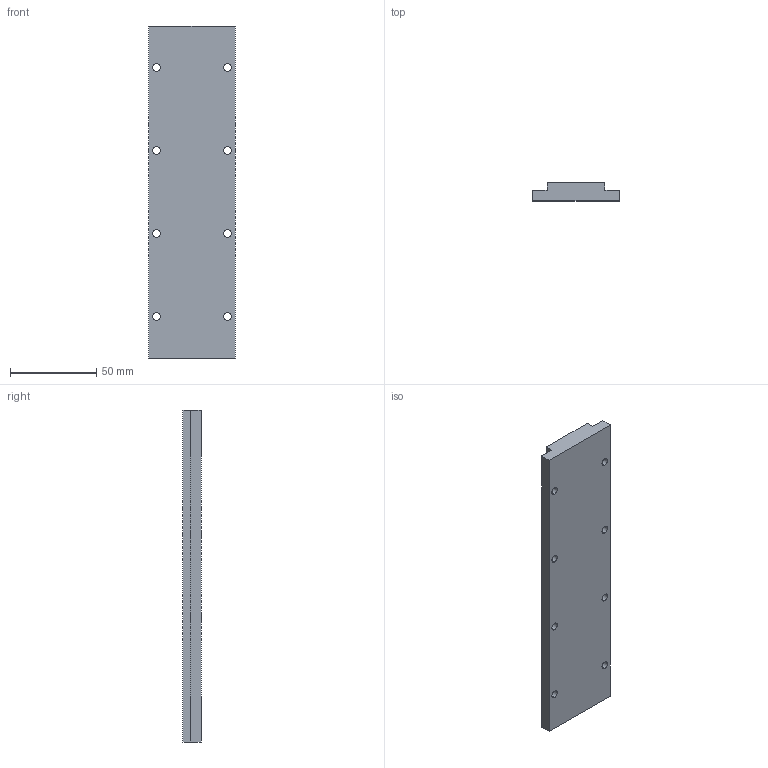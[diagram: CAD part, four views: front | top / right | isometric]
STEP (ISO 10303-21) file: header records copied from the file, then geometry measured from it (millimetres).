
FILE_DESCRIPTION (( 'STEP AP214' ), '1' );
FILE_NAME ('TLT-50-L192.STEP', '2022-04-13T09:10:28', ( 'Microsoft' ), ( 'Microsoft' ), 'SwSTEP 2.0', 'SolidWorks 2016', '' );
FILE_SCHEMA (( 'AUTOMOTIVE_DESIGN' ));
Length unit declared in the file: millimetre
Products named in the file (1): TLT-50-L192
Bounding box: 50 x 10.5 x 192 mm (x, y, z)
Volume: 85780.6 mm3; surface area: 24557.6 mm2
Topology: 1 solids, 1 shells, 26 faces, 72 edges, 48 vertices
Faces by surface type: cylinder 16, plane 10
Entity records: 914 total; most frequent: DIRECTION 158, CARTESIAN_POINT 147, ORIENTED_EDGE 144, EDGE_CURVE 72, AXIS2_PLACEMENT_3D 59, VERTEX_POINT 48, EDGE_LOOP 42, VECTOR 40
